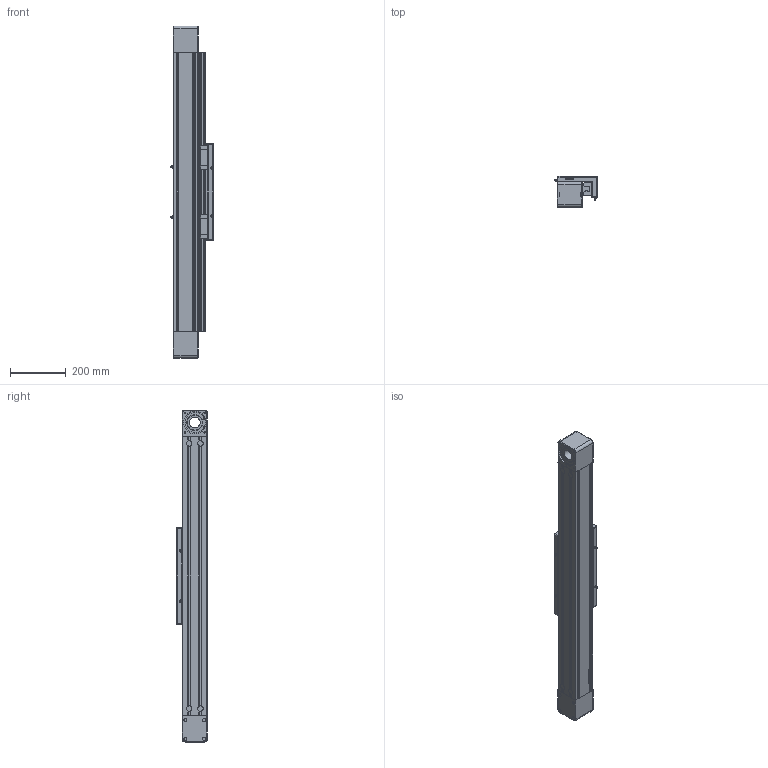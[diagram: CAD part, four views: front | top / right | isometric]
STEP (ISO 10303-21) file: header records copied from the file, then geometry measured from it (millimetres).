
FILE_DESCRIPTION(/* description */ ('00'),/* implementation_level */ '2;1');
FILE_NAME(/* name */ 'D:\EVOLVE\STUDIO_EVOLVE\LIBRERIA_MODELLI\UNITÀ_BELT_SERIE_D\UBD_SIMPLIFIED\UBD_090_L+_TS38_X0650_C1.stp',/* time_stamp */ '2022-04-13T17:04:38+02:00',/* author */ ('Daniel'),/* organization */ (''),/* preprocessor_version */ 'ST-DEVELOPER v18.1',/* originating_system */ 'Autodesk Inventor 2021',/* authorisation */ '');
FILE_SCHEMA (('AUTOMOTIVE_DESIGN { 1 0 10303 214 3 1 1 }'));
Length unit declared in the file: millimetre
Products named in the file (5): UBD_090_L+_TS38_X0650_C1; AS_UBD_090_+_L1000_SIMPLIFIED; TS_UBD_090_38_SIMPLIFIED; TS_UBD_090_F_SIMPLIFIED; CR_UBD_090_L+_SIMPLIFIED
Assembly tree (4 placements, depth 2):
  UBD_090_L+_TS38_X0650_C1
    AS_UBD_090_+_L1000_SIMPLIFIED
    TS_UBD_090_38_SIMPLIFIED
    TS_UBD_090_F_SIMPLIFIED
    CR_UBD_090_L+_SIMPLIFIED
Bounding box: 152.8 x 110 x 1190 mm (x, y, z)
Volume: 10396078.3 mm3; surface area: 1142362.1 mm2
Topology: 83 solids, 83 shells, 1130 faces, 2686 edges, 1764 vertices
Faces by surface type: plane 658, cylinder 360, cone 78, torus 16, sphere 12, bspline 6
Full cylindrical faces by diameter (mm): 0.112 x2, 3 x4, 4.917 x8, 6.647 x25, 8 x2, 11.2 x82, 13 x4, 20 x8, 38 x1, 55 x2, 80 x2, 83.5 x2
Entity records: 34142 total; most frequent: CARTESIAN_POINT 6906, DIRECTION 5532, ORIENTED_EDGE 5352, EDGE_CURVE 2676, AXIS2_PLACEMENT_3D 1941, VERTEX_POINT 1764, LINE 1650, VECTOR 1650
